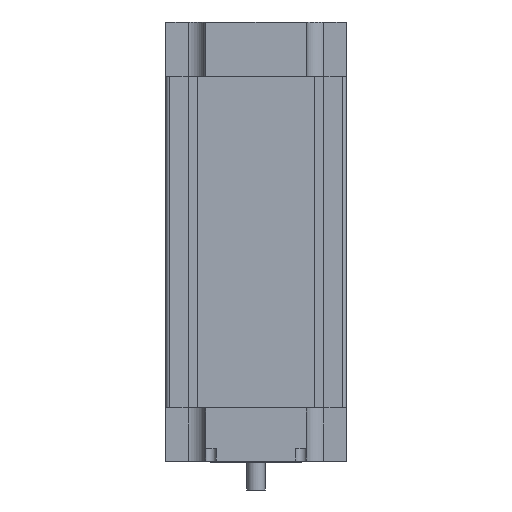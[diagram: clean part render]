
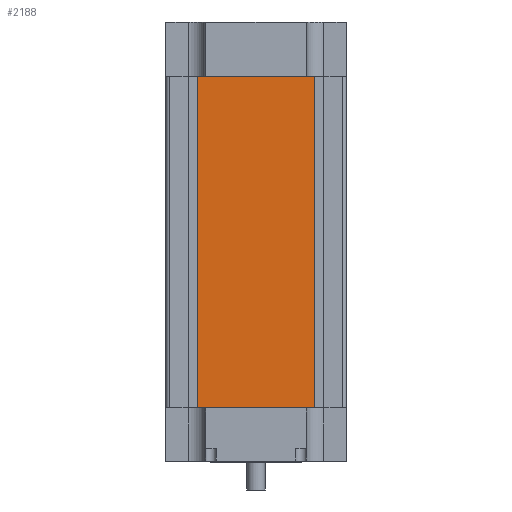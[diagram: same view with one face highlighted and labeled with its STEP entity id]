
A CAD part, front view. The second image highlights one B-rep face of the part: STEP entity #2188.
In plain terms, the highlighted planar face has unit normal (0, -1, 0).
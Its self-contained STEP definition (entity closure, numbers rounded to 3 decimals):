
#1084 = VERTEX_POINT ( 'NONE', #5194 ) ;
#1086 = VERTEX_POINT ( 'NONE', #5190 ) ;
#1092 = EDGE_CURVE ( 'NONE', #1086, #1084, #5244, .T. ) ;
#1779 = VERTEX_POINT ( 'NONE', #6908 ) ;
#1785 = VERTEX_POINT ( 'NONE', #6920 ) ;
#1789 = EDGE_CURVE ( 'NONE', #1779, #1785, #6960, .T. ) ;
#2122 = ORIENTED_EDGE ( 'NONE', *, *, #2189, .F. ) ;
#2170 = ORIENTED_EDGE ( 'NONE', *, *, #2182, .T. ) ;
#2182 = EDGE_CURVE ( 'NONE', #1086, #1779, #7619, .T. ) ;
#2185 = EDGE_LOOP ( 'NONE', ( #2199, #2122, #2186, #2170 ) ) ;
#2186 = ORIENTED_EDGE ( 'NONE', *, *, #1092, .F. ) ;
#2188 = ADVANCED_FACE ( 'NONE', ( #7620 ), #7621, .F. ) ;
#2189 = EDGE_CURVE ( 'NONE', #1084, #1785, #7613, .T. ) ;
#2199 = ORIENTED_EDGE ( 'NONE', *, *, #1789, .T. ) ;
#5190 = CARTESIAN_POINT ( 'NONE',  ( -65., -48.75, 368. ) ) ;
#5194 = CARTESIAN_POINT ( 'NONE',  ( 65., -48.75, 368. ) ) ;
#5235 = DIRECTION ( 'NONE',  ( 1., 0., 0. ) ) ;
#5236 = VECTOR ( 'NONE', #5235, 1000. ) ;
#5237 = CARTESIAN_POINT ( 'NONE',  ( -65., -48.75, 368. ) ) ;
#5244 = LINE ( 'NONE', #5237, #5236 ) ;
#6908 = CARTESIAN_POINT ( 'NONE',  ( -65., -48.75, 0. ) ) ;
#6920 = CARTESIAN_POINT ( 'NONE',  ( 65., -48.75, 0. ) ) ;
#6944 = DIRECTION ( 'NONE',  ( 1., 0., 0. ) ) ;
#6945 = VECTOR ( 'NONE', #6944, 1000. ) ;
#6946 = CARTESIAN_POINT ( 'NONE',  ( -65., -48.75, 0. ) ) ;
#6960 = LINE ( 'NONE', #6946, #6945 ) ;
#7604 = DIRECTION ( 'NONE',  ( 0., 0., -1. ) ) ;
#7605 = VECTOR ( 'NONE', #7604, 1000. ) ;
#7606 = CARTESIAN_POINT ( 'NONE',  ( 65., -48.75, 368. ) ) ;
#7610 = DIRECTION ( 'NONE',  ( -1., 0., 0. ) ) ;
#7611 = DIRECTION ( 'NONE',  ( 0., 1., 0. ) ) ;
#7613 = LINE ( 'NONE', #7606, #7605 ) ;
#7616 = DIRECTION ( 'NONE',  ( 0., 0., -1. ) ) ;
#7617 = VECTOR ( 'NONE', #7616, 1000. ) ;
#7618 = CARTESIAN_POINT ( 'NONE',  ( -65., -48.75, 368. ) ) ;
#7619 = LINE ( 'NONE', #7618, #7617 ) ;
#7620 = FACE_OUTER_BOUND ( 'NONE', #2185, .T. ) ;
#7621 = PLANE ( 'NONE',  #7625 ) ;
#7625 = AXIS2_PLACEMENT_3D ( 'NONE', #7626, #7611, #7610 ) ;
#7626 = CARTESIAN_POINT ( 'NONE',  ( -65., -48.75, 368. ) ) ;
